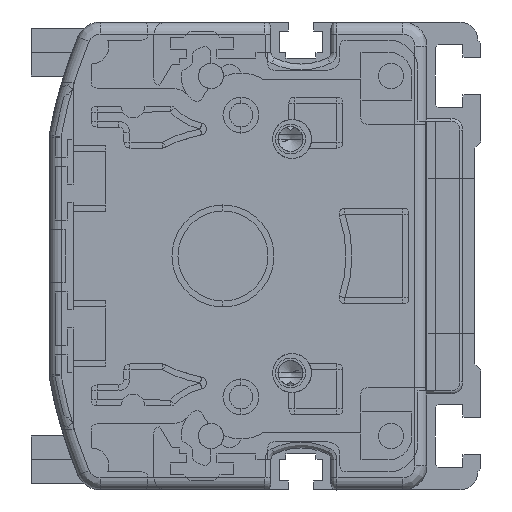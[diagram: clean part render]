
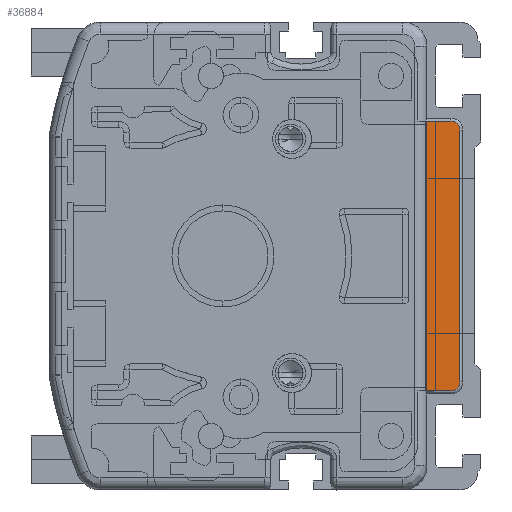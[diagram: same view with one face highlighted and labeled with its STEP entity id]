
A CAD part, left-side view. The second image highlights one B-rep face of the part: STEP entity #36884.
In plain terms, the highlighted planar face has unit normal (-1, 0, 0).
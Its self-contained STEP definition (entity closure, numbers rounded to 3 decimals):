
#31455=DIRECTION('',(0.,0.,-1.));
#31456=VECTOR('',#31455,45.);
#31457=CARTESIAN_POINT('',(-2.,9.268,22.5));
#31458=LINE('',#31457,#31456);
#31490=CARTESIAN_POINT('',(-2.,5.,21.));
#31491=DIRECTION('',(1.,0.,0.));
#31492=DIRECTION('',(0.,0.,1.));
#31493=AXIS2_PLACEMENT_3D('',#31490,#31491,#31492);
#31495=CARTESIAN_POINT('',(-2.,5.,-21.));
#31496=DIRECTION('',(1.,0.,0.));
#31497=DIRECTION('',(0.,-1.,0.));
#31498=AXIS2_PLACEMENT_3D('',#31495,#31496,#31497);
#31504=DIRECTION('',(0.,-1.,0.));
#31505=VECTOR('',#31504,4.268);
#31506=CARTESIAN_POINT('',(-2.,9.268,-22.5));
#31507=LINE('',#31506,#31505);
#32024=DIRECTION('',(0.,0.,1.));
#32025=VECTOR('',#32024,42.);
#32026=CARTESIAN_POINT('',(-2.,3.5,-21.));
#32027=LINE('',#32026,#32025);
#32047=DIRECTION('',(0.,1.,0.));
#32048=VECTOR('',#32047,4.268);
#32049=CARTESIAN_POINT('',(-2.,5.,22.5));
#32050=LINE('',#32049,#32048);
#35331=CARTESIAN_POINT('',(-2.,9.268,22.5));
#35332=CARTESIAN_POINT('',(-2.,9.268,-22.5));
#35333=VERTEX_POINT('',#35331);
#35334=VERTEX_POINT('',#35332);
#35344=CARTESIAN_POINT('',(-2.,5.,-22.5));
#35345=VERTEX_POINT('',#35344);
#35346=CARTESIAN_POINT('',(-2.,3.5,-21.));
#35347=VERTEX_POINT('',#35346);
#35348=CARTESIAN_POINT('',(-2.,3.5,21.));
#35349=VERTEX_POINT('',#35348);
#35350=CARTESIAN_POINT('',(-2.,5.,22.5));
#35351=VERTEX_POINT('',#35350);
#36866=CARTESIAN_POINT('',(-2.,6.384,0.));
#36867=DIRECTION('',(1.,0.,0.));
#36868=DIRECTION('',(0.,0.,-1.));
#36869=AXIS2_PLACEMENT_3D('',#36866,#36867,#36868);
#36870=PLANE('',#36869);
#36872=ORIENTED_EDGE('',*,*,#36871,.F.);
#36873=ORIENTED_EDGE('',*,*,#36845,.F.);
#36875=ORIENTED_EDGE('',*,*,#36874,.F.);
#36877=ORIENTED_EDGE('',*,*,#36876,.T.);
#36879=ORIENTED_EDGE('',*,*,#36878,.F.);
#36881=ORIENTED_EDGE('',*,*,#36880,.T.);
#36882=EDGE_LOOP('',(#36872,#36873,#36875,#36877,#36879,#36881));
#36883=FACE_OUTER_BOUND('',#36882,.F.);
#36884=ADVANCED_FACE('',(#36883),#36870,.F.);
#31494=CIRCLE('',#31493,1.5);
#31499=CIRCLE('',#31498,1.5);
#36845=EDGE_CURVE('',#35333,#35334,#31458,.T.);
#36871=EDGE_CURVE('',#35334,#35345,#31507,.T.);
#36874=EDGE_CURVE('',#35351,#35333,#32050,.T.);
#36876=EDGE_CURVE('',#35351,#35349,#31494,.T.);
#36878=EDGE_CURVE('',#35347,#35349,#32027,.T.);
#36880=EDGE_CURVE('',#35347,#35345,#31499,.T.);
